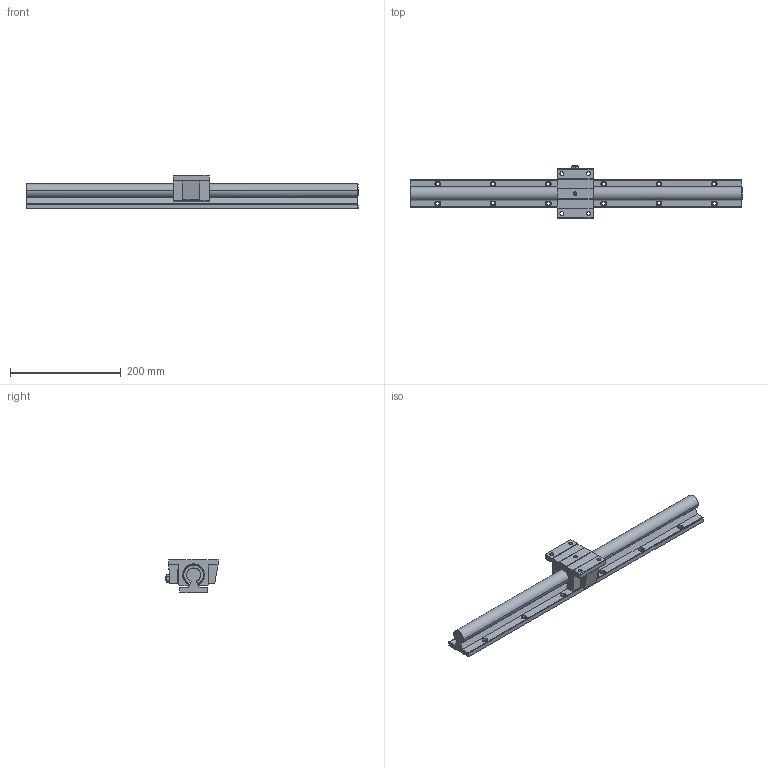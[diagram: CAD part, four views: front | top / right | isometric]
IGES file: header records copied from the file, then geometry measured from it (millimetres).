
Global section: file name: No Iges File Name specified; native system: AutoDesk Inventor R10; preprocessor: AutoDesk Inventor Iges Exporter R10; author: No Author specified; organization: No Organization specified; date: 20101221.092134; units: millimetre
Bounding box: 600 x 96 x 60 mm (x, y, z)
Surface area: 152067.9 mm2 (no closed solid volume)
Topology: 0 solids, 0 shells, 218 faces, 1494 edges, 1490 vertices
Faces by surface type: bspline 218
